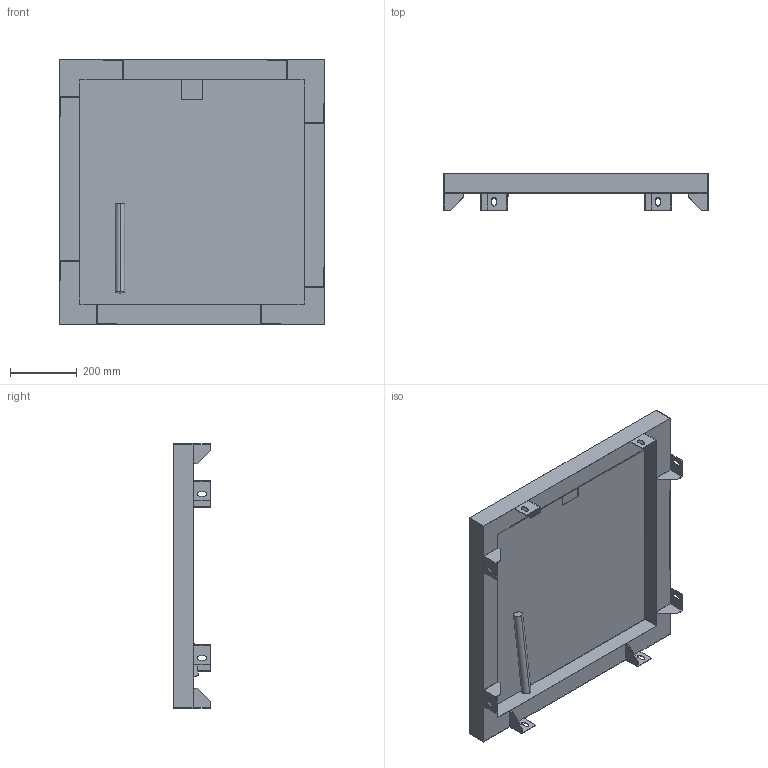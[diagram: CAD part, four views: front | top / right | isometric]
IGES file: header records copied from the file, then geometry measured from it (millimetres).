
Start section:  PTC IGES file: 51323989.igs
Global section: file name: 51323989.igs; native system: Creo Parametric by Parametric Technology Corporation; preprocessor: 2017170; author: slc; organization: Unknown; date: 20190221.104946; units: millimetre
Bounding box: 790 x 110 x 790 mm (x, y, z)
Surface area: 2462399.8 mm2 (no closed solid volume)
Topology: 0 solids, 0 shells, 139 faces, 764 edges, 764 vertices
Faces by surface type: bspline 115, revolution 24
